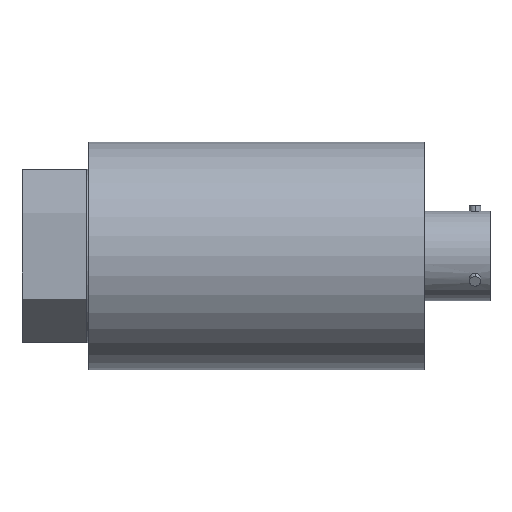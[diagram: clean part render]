
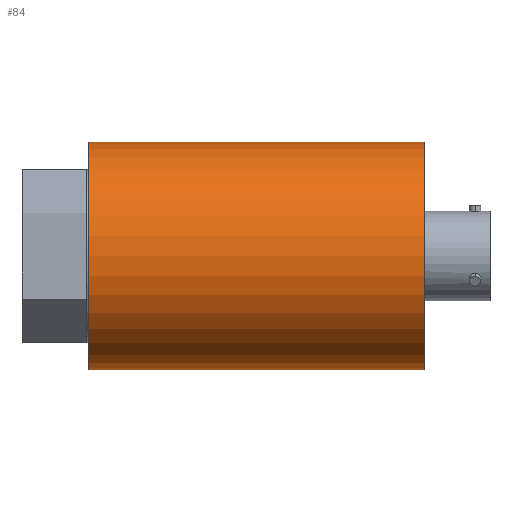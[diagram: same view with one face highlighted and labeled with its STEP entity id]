
A CAD part, top view. The second image highlights one B-rep face of the part: STEP entity #84.
In plain terms, the highlighted cylindrical face has radius 19.05 mm (diameter 38.1 mm), a partial arc.
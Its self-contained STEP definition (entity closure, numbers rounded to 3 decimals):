
#84=ADVANCED_FACE('',(#218),#219,.T.);
#218=FACE_OUTER_BOUND('',#409,.T.);
#219=CYLINDRICAL_SURFACE('',#410,19.05);
#409=EDGE_LOOP('',(#603,#604,#605,#606));
#410=AXIS2_PLACEMENT_3D('',#607,#608,#609);
#603=ORIENTED_EDGE('',*,*,#1083,.F.);
#604=ORIENTED_EDGE('',*,*,#1084,.T.);
#605=ORIENTED_EDGE('',*,*,#1085,.F.);
#606=ORIENTED_EDGE('',*,*,#1086,.F.);
#607=CARTESIAN_POINT('',(39.25,0.0,0.0));
#608=DIRECTION('',(-1.0,0.0,0.0));
#609=DIRECTION('',(0.0,1.0,0.0));
#1083=EDGE_CURVE('',#1277,#1278,#1279,.T.);
#1084=EDGE_CURVE('',#1277,#1280,#1281,.T.);
#1085=EDGE_CURVE('',#1282,#1280,#1283,.T.);
#1086=EDGE_CURVE('',#1278,#1282,#1284,.T.);
#1277=VERTEX_POINT('',#1617);
#1278=VERTEX_POINT('',#1618);
#1279=LINE('',#1619,#1620);
#1280=VERTEX_POINT('',#1621);
#1281=CIRCLE('',#1622,19.05);
#1282=VERTEX_POINT('',#1623);
#1283=LINE('',#1624,#1625);
#1284=CIRCLE('',#1626,19.05);
#1617=CARTESIAN_POINT('',(11.2,19.05,0.0));
#1618=CARTESIAN_POINT('',(67.3,19.05,0.0));
#1619=CARTESIAN_POINT('',(39.25,19.05,0.));
#1620=VECTOR('',#1995,1.0);
#1621=CARTESIAN_POINT('',(11.2,-19.05,0.));
#1622=AXIS2_PLACEMENT_3D('',#1996,#1997,#1998);
#1623=CARTESIAN_POINT('',(67.3,-19.05,0.));
#1624=CARTESIAN_POINT('',(39.25,-19.05,0.));
#1625=VECTOR('',#1999,1.0);
#1626=AXIS2_PLACEMENT_3D('',#2000,#2001,#2002);
#1995=DIRECTION('',(1.0,-0.0,-0.0));
#1996=CARTESIAN_POINT('',(11.2,0.0,0.0));
#1997=DIRECTION('',(1.0,0.0,0.0));
#1998=DIRECTION('',(0.0,1.0,0.0));
#1999=DIRECTION('',(-1.0,0.0,0.0));
#2000=CARTESIAN_POINT('',(67.3,0.0,0.0));
#2001=DIRECTION('',(1.0,0.0,0.0));
#2002=DIRECTION('',(0.0,1.0,0.0));
